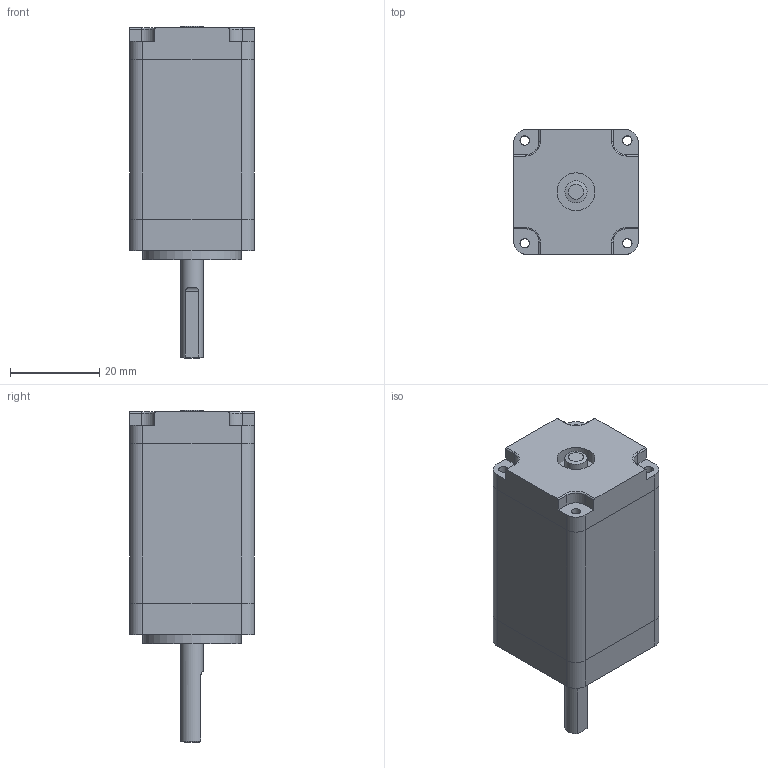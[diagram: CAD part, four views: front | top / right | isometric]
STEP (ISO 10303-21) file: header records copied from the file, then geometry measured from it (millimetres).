
FILE_DESCRIPTION( ('This file contains a STEP AP42 implementation' ,'as created by ZW3D STEP Interface translator.') ,'2;1' );
FILE_NAME( 'AM510A-28A0016-0000.stp' ,'24 724.171824', (''), ('ZWCAD Software Co.'), 'Version 1.0', 'ZW3D to STEP translator', '' );
FILE_SCHEMA(('AUTOMOTIVE_DESIGN { 1 0 10303 214 1 1 1 1 }'));
Length unit declared in the file: millimetre
Products named in the file (2): 0; 睽捶28
Bounding box: 28 x 28 x 74.4 mm (x, y, z)
Volume: 39901.6 mm3; surface area: 15613.4 mm2
Topology: 6 solids, 6 shells, 91 faces, 230 edges, 153 vertices
Faces by surface type: cylinder 46, plane 39, torus 4, cone 2
Full cylindrical faces by diameter (mm): 2.1 x12, 5 x1, 8.5 x4, 9 x1, 22 x2, 25 x1
Entity records: 2946 total; most frequent: DIRECTION 518, CARTESIAN_POINT 480, ORIENTED_EDGE 442, EDGE_CURVE 221, AXIS2_PLACEMENT_3D 198, VERTEX_POINT 144, EDGE_LOOP 125, VECTOR 122
